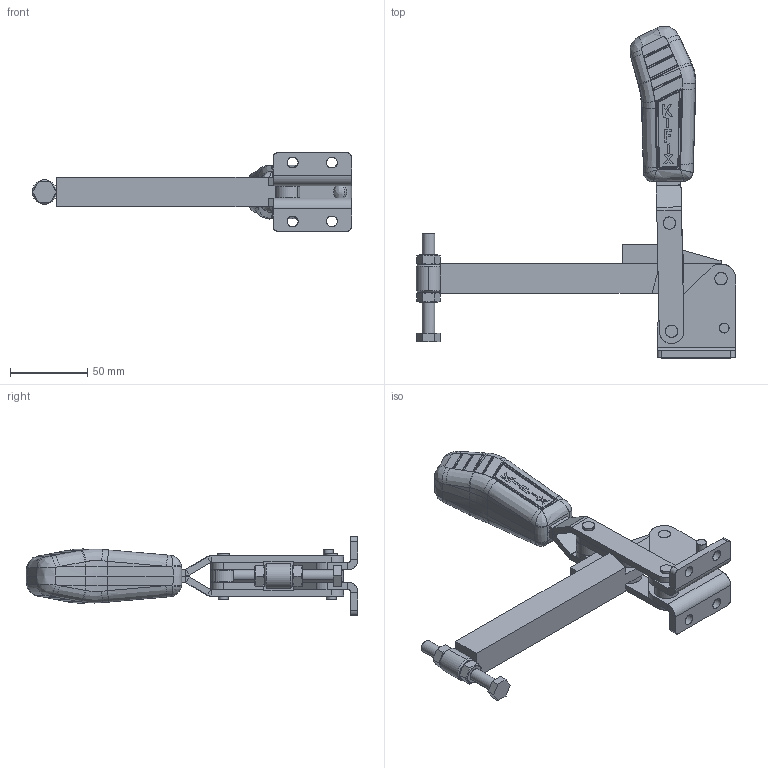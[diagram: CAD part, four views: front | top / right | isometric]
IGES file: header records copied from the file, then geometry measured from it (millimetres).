
Start section: SolidWorks IGES file using analytic representation for surfaces
Global section: file name: C:\Projetos\Grampos\KF-615\KF-615 BL\KF-615 BL.IGS; native system: SolidWorks 2014; preprocessor: SolidWorks 2014; author: Ricardo; date: 141024.153208; units: millimetre
Bounding box: 206.88 x 214.98 x 50.8 mm (x, y, z)
Surface area: 76103.1 mm2 (no closed solid volume)
Topology: 0 solids, 0 shells, 680 faces, 7848 edges, 7825 vertices
Faces by surface type: bspline 414, revolution 266
